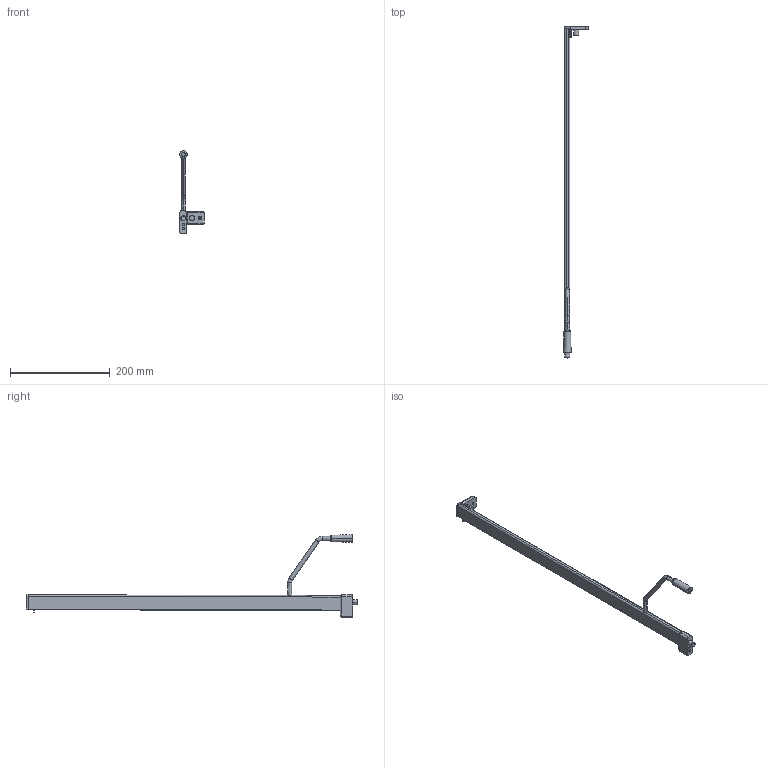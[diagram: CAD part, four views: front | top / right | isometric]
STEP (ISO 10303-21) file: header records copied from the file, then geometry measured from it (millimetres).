
FILE_DESCRIPTION (( 'STEP AP214' ), '1' );
FILE_NAME ('_2S_REL_7606_NL650_LI_Frontstütze.step', '2010-07-01T14:42:11', ( 'grass' ), ( '' ), 'SwSTEP 2.0', 'SolidWorks 2009', '' );
FILE_SCHEMA (( 'AUTOMOTIVE_DESIGN' ));
Length unit declared in the file: millimetre
Products named in the file (1): _2S_REL_7606_NL650_LI_Frontstütze
Bounding box: 49.75 x 665.5 x 165.5 mm (x, y, z)
Volume: 231058 mm3; surface area: 63036.3 mm2
Topology: 2 solids, 2 shells, 143 faces, 344 edges, 209 vertices
Faces by surface type: cylinder 61, plane 46, bspline 16, torus 12, cone 6, sphere 2
Entity records: 5314 total; most frequent: CARTESIAN_POINT 2089, ORIENTED_EDGE 684, DIRECTION 658, EDGE_CURVE 342, AXIS2_PLACEMENT_3D 252, VERTEX_POINT 209, LINE 154, VECTOR 154
